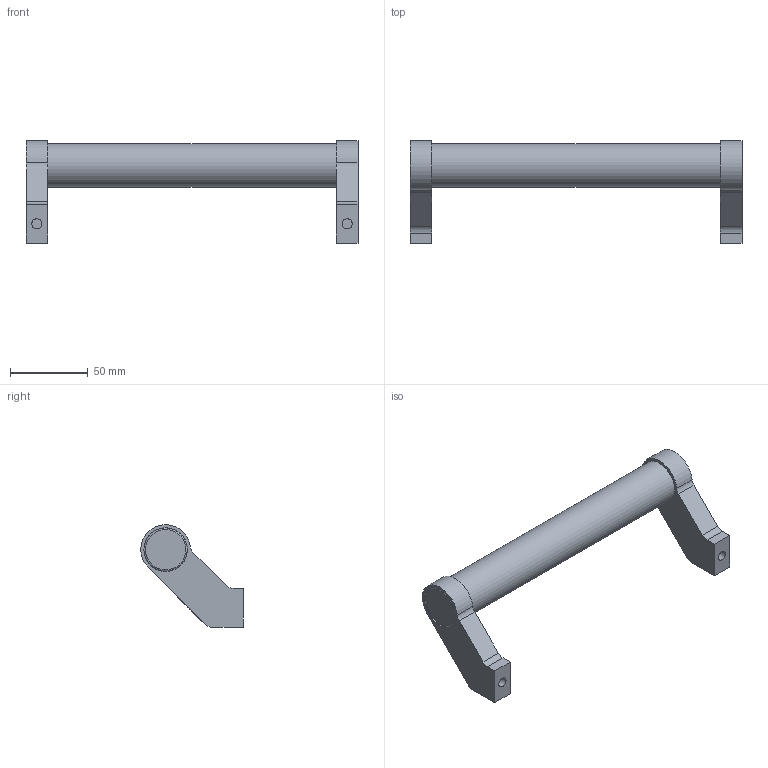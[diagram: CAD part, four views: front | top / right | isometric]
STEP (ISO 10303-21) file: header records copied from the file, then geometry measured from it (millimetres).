
FILE_DESCRIPTION( ( 'STEP AP203' ), '1' );
FILE_NAME( 'C:/Temp/Ganter_Step_05_03_2020/data/1_2/gn333/Tubular handle GN 333-28-200-B-EL.stp', '2020-03-05T10:16:27', ( 'License CC BY-ND 4.0' ), ( 'CADENAS' ), ' ', 'PARTsolutions', ' ' );
FILE_SCHEMA( ( 'CONFIG_CONTROL_DESIGN' ) );
Length unit declared in the file: millimetre
Products named in the file (1): _Tubular handle GN 333-28-200-B-EL
Bounding box: 214 x 65.95 x 65.97 mm (x, y, z)
Volume: 173827.5 mm3; surface area: 33219.7 mm2
Topology: 1 solids, 1 shells, 53 faces, 115 edges, 76 vertices
Faces by surface type: plane 32, cylinder 19, torus 2
Full cylindrical faces by diameter (mm): 6.5 x2, 11 x2, 11.4 x2, 12 x2, 28 x3
Entity records: 1424 total; most frequent: CARTESIAN_POINT 272, DIRECTION 240, ORIENTED_EDGE 196, EDGE_CURVE 98, AXIS2_PLACEMENT_3D 96, EDGE_LOOP 76, VERTEX_POINT 70, FACE_OUTER_BOUND 64
